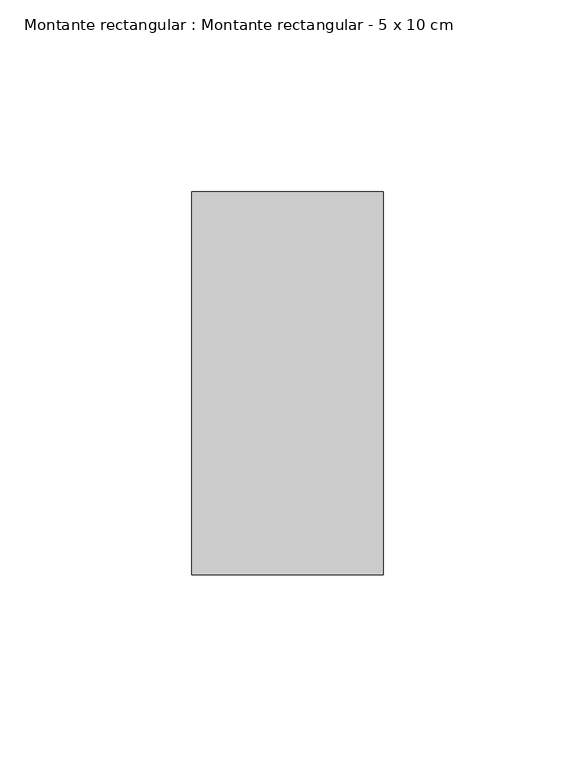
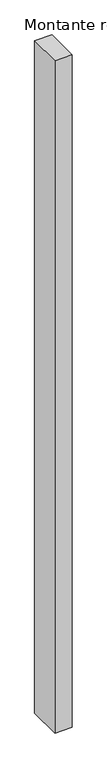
"""IFC4 building model written with IfcOpenShell, lengths in millimetres: member geometry, Montante rectangular : Montante rectangular - 5 x 10 cm."""

from ifc_helpers import new_model, si_unit, frame, origin, place, context, project, spatial, polyline, outline, extrude, source, transform, mapped, element, save


def montante_rectangular_montante_rectangular_5_x_10_cm_bb577a7e(model_context):
    return source(origin(), model_context, "Body", "SweptSolid", [
        extrude(outline(polyline([(25.0, 50.0), (25.0, -50.0), (-25.0, -50.0), (-25.0, 50.0), (25.0, 50.0)])), frame((0.0, 0.0, -2041.1603928), z_axis=(0.0, 0.0, 1.0), x_axis=(1.0, 0.0, 0.0)), (0.0, 0.0, 1.0), 2041.1603928),
    ])


if __name__ == "__main__":
    model = new_model("IFC4")
    model_context = context("Model", 3, world=origin())
    ifc_project = project(units=[si_unit("LENGTHUNIT", "METRE", prefix="MILLI")], contexts=[model_context])
    site = spatial("IfcSite", under=ifc_project)
    building = spatial("IfcBuilding", under=site)
    placement = place(None, origin())
    montante_rectangular_montante_rectangular_5_x_10_cm_shape = montante_rectangular_montante_rectangular_5_x_10_cm_bb577a7e(model_context)
    element("IfcMember", 1, ObjectType="Montante rectangular : Montante rectangular - 5 x 10 cm", at=placement, inside=building, context=model_context, shape_type="MappedRepresentation", body=[
        mapped(montante_rectangular_montante_rectangular_5_x_10_cm_shape, transform((0.0, 0.0, 0.0), x_axis=(1.0, 0.0, 0.0), y_axis=(0.0, 1.0, 0.0), z_axis=(0.0, 0.0, 1.0))),
    ])
    save(model, "model.ifc")
